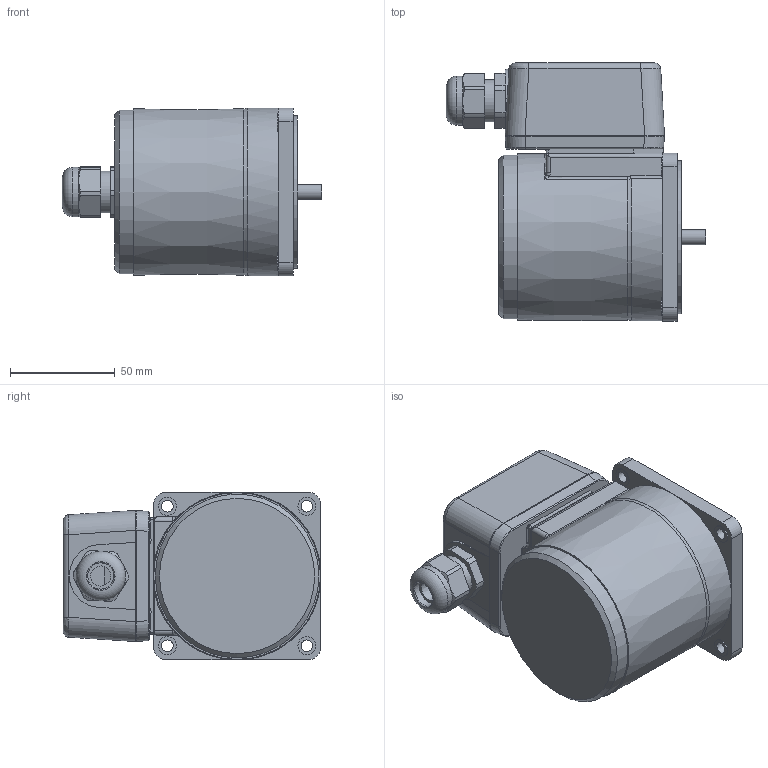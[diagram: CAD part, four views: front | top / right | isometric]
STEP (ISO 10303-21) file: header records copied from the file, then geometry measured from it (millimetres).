
FILE_DESCRIPTION((''),'2;1');
FILE_NAME('D:\STP파일\25W MOTOR\T BOX TYPE\S8I15G-T.stp','2013-05-20T16:45:01',('leebh'),(''),'Autodesk Inventor 2011','Autodesk Inventor 2011','');
FILE_SCHEMA(('AUTOMOTIVE_DESIGN { 1 0 10303 214 1 1 1 1 }'));
Length unit declared in the file: millimetre
Products named in the file (1): 부품3
Bounding box: 123.6 x 123 x 80 mm (x, y, z)
Volume: 630359.7 mm3; surface area: 58654.6 mm2
Topology: 1 solids, 9 shells, 364 faces, 895 edges, 569 vertices
Faces by surface type: plane 188, cylinder 108, bspline 46, torus 18, cone 4
Full cylindrical faces by diameter (mm): 2.55 x2, 5.5 x4, 5.6 x4, 6.3 x4, 7.2 x1, 8.5 x4, 12.5 x1, 15 x1, 20 x2, 21 x1, 23.6 x1, 34 x1, 73 x1, 78 x1
Entity records: 12385 total; most frequent: CARTESIAN_POINT 3883, ORIENTED_EDGE 1666, DIRECTION 1623, EDGE_CURVE 833, AXIS2_PLACEMENT_3D 584, VERTEX_POINT 557, VECTOR 455, LINE 455
